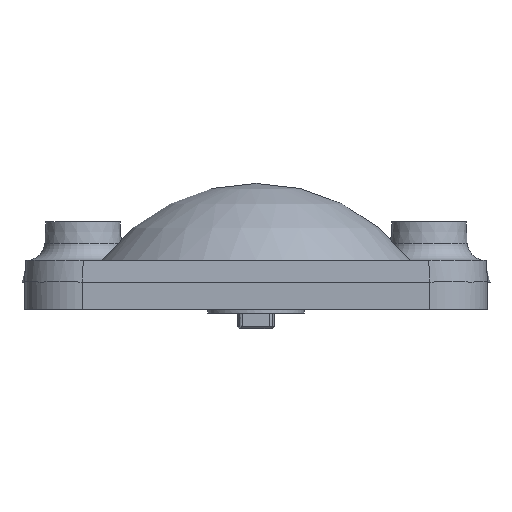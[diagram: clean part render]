
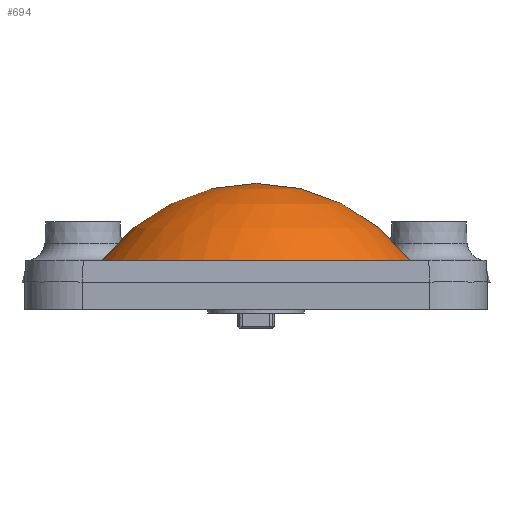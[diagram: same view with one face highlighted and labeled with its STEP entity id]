
A CAD part, left-side view. The second image highlights one B-rep face of the part: STEP entity #694.
In plain terms, the highlighted spherical face has radius 10.05 mm.
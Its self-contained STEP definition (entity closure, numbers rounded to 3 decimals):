
#694=ADVANCED_FACE('',(#1826),#1827,.T.);
#1826=FACE_OUTER_BOUND('',#3959,.T.);
#1827=SPHERICAL_SURFACE('',#3960,10.05);
#3959=EDGE_LOOP('',(#9087));
#3960=AXIS2_PLACEMENT_3D('',#9088,#9089,#9090);
#9087=ORIENTED_EDGE('',*,*,#13209,.F.);
#9088=CARTESIAN_POINT('',(0.0,0.0,-4.0));
#9089=DIRECTION('',(0.0,0.0,1.0));
#9090=DIRECTION('',(1.0,0.0,0.0));
#13209=EDGE_CURVE('',#15478,#15478,#15479,.T.);
#15478=VERTEX_POINT('',#19817);
#15479=CIRCLE('',#19818,8.025);
#19817=CARTESIAN_POINT('',(-8.025,0.0,2.05));
#19818=AXIS2_PLACEMENT_3D('',#23821,#23822,#23823);
#23821=CARTESIAN_POINT('',(0.0,0.0,2.05));
#23822=DIRECTION('',(0.0,0.0,-1.0));
#23823=DIRECTION('',(-1.0,0.0,0.0));
